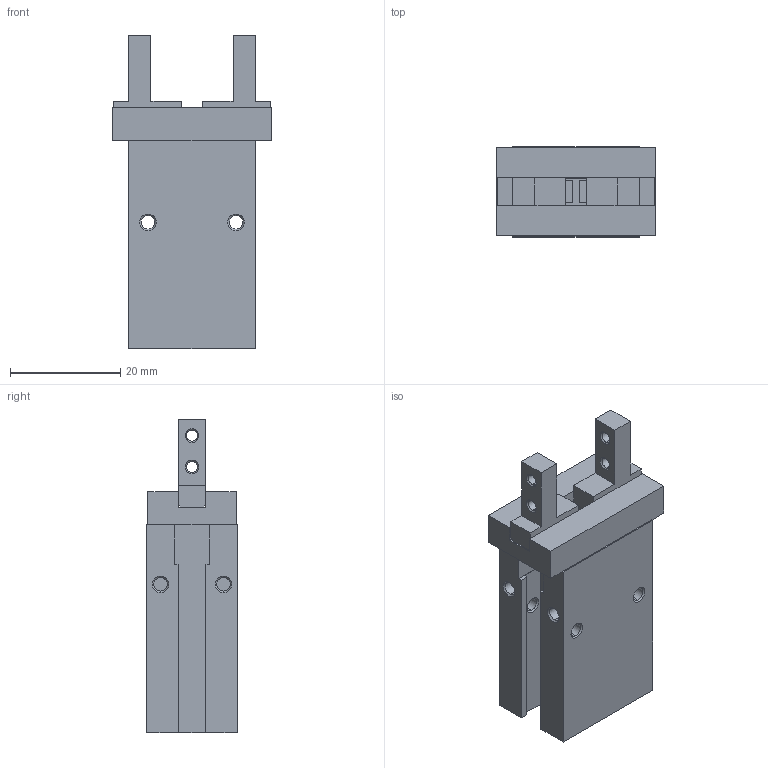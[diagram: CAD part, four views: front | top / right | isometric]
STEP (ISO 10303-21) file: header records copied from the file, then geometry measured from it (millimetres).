
FILE_DESCRIPTION (( 'STEP AP214' ), '1' );
FILE_NAME ('GMHZ2-10D.STEP', '2019-11-12T00:49:34', ( '微软用户' ), ( '微软中国' ), 'SwSTEP 2.0', 'SolidWorks 2016', '' );
FILE_SCHEMA (( 'AUTOMOTIVE_DESIGN' ));
Length unit declared in the file: millimetre
Products named in the file (1): GMHZ2-10D
Bounding box: 29 x 16.4 x 57 mm (x, y, z)
Volume: 14628.2 mm3; surface area: 7071.1 mm2
Topology: 3 solids, 3 shells, 178 faces, 430 edges, 270 vertices
Faces by surface type: plane 96, cone 44, cylinder 36, bspline 2
Entity records: 5236 total; most frequent: CARTESIAN_POINT 917, DIRECTION 898, ORIENTED_EDGE 860, EDGE_CURVE 430, VECTOR 300, LINE 300, AXIS2_PLACEMENT_3D 299, VERTEX_POINT 270
